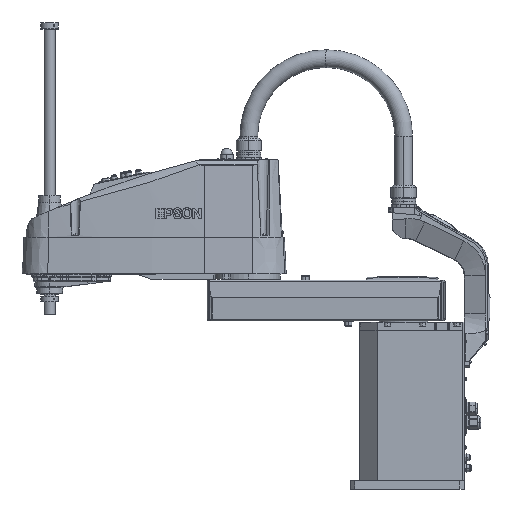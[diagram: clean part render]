
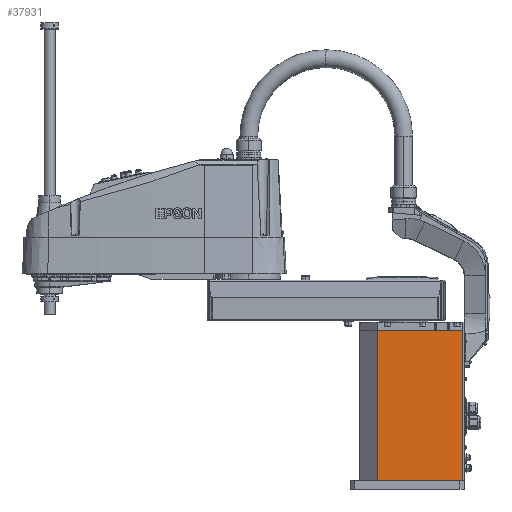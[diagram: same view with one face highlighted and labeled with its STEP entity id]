
A CAD part, top view. The second image highlights one B-rep face of the part: STEP entity #37931.
In plain terms, the highlighted planar face has unit normal (0, 0, 1).
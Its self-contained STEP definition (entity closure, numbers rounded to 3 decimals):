
#1190 = EDGE_CURVE ( 'NONE', #11441, #52360, #115197, .T. ) ;
#7577 = PLANE ( 'NONE',  #108218 ) ;
#9428 = LINE ( 'NONE', #29729, #22267 ) ;
#11441 = VERTEX_POINT ( 'NONE', #17925 ) ;
#12386 = CARTESIAN_POINT ( 'NONE',  ( 133.3, 19., 85. ) ) ;
#14948 = CARTESIAN_POINT ( 'NONE',  ( 133.3, 19., 85. ) ) ;
#15623 = CARTESIAN_POINT ( 'NONE',  ( -59.793, 19., 85. ) ) ;
#17925 = CARTESIAN_POINT ( 'NONE',  ( 133.3, 357.9, 85. ) ) ;
#22267 = VECTOR ( 'NONE', #68488, 1000. ) ;
#22988 = VECTOR ( 'NONE', #58001, 1000. ) ;
#24856 = VERTEX_POINT ( 'NONE', #15623 ) ;
#27893 = DIRECTION ( 'NONE',  ( 0., 0., -1. ) ) ;
#29729 = CARTESIAN_POINT ( 'NONE',  ( 133.3, 357.9, 85. ) ) ;
#30945 = ORIENTED_EDGE ( 'NONE', *, *, #92529, .T. ) ;
#32717 = LINE ( 'NONE', #14948, #92303 ) ;
#35244 = DIRECTION ( 'NONE',  ( -1., 0., 0. ) ) ;
#35480 = EDGE_LOOP ( 'NONE', ( #107632, #75265, #77758, #30945 ) ) ;
#35911 = DIRECTION ( 'NONE',  ( 0., 1., 0. ) ) ;
#36021 = VECTOR ( 'NONE', #35911, 1000. ) ;
#37931 = ADVANCED_FACE ( 'NONE', ( #45706 ), #7577, .F. ) ;
#45706 = FACE_OUTER_BOUND ( 'NONE', #35480, .T. ) ;
#52360 = VERTEX_POINT ( 'NONE', #12386 ) ;
#54492 = VERTEX_POINT ( 'NONE', #56182 ) ;
#56182 = CARTESIAN_POINT ( 'NONE',  ( -59.793, 357.9, 85. ) ) ;
#58001 = DIRECTION ( 'NONE',  ( 0., -1., 0. ) ) ;
#68488 = DIRECTION ( 'NONE',  ( -1., 0., 0. ) ) ;
#73713 = DIRECTION ( 'NONE',  ( 0., -1., 0. ) ) ;
#75265 = ORIENTED_EDGE ( 'NONE', *, *, #87571, .F. ) ;
#75501 = EDGE_CURVE ( 'NONE', #24856, #54492, #122302, .T. ) ;
#77758 = ORIENTED_EDGE ( 'NONE', *, *, #1190, .F. ) ;
#84868 = CARTESIAN_POINT ( 'NONE',  ( -59.793, 19., 85. ) ) ;
#85429 = CARTESIAN_POINT ( 'NONE',  ( 133.3, 357.9, 85. ) ) ;
#87571 = EDGE_CURVE ( 'NONE', #52360, #24856, #32717, .T. ) ;
#92303 = VECTOR ( 'NONE', #35244, 1000. ) ;
#92529 = EDGE_CURVE ( 'NONE', #11441, #54492, #9428, .T. ) ;
#107632 = ORIENTED_EDGE ( 'NONE', *, *, #75501, .F. ) ;
#108218 = AXIS2_PLACEMENT_3D ( 'NONE', #114895, #27893, #73713 ) ;
#114895 = CARTESIAN_POINT ( 'NONE',  ( -59.793, 358.2, 85. ) ) ;
#115197 = LINE ( 'NONE', #85429, #22988 ) ;
#122302 = LINE ( 'NONE', #84868, #36021 ) ;
